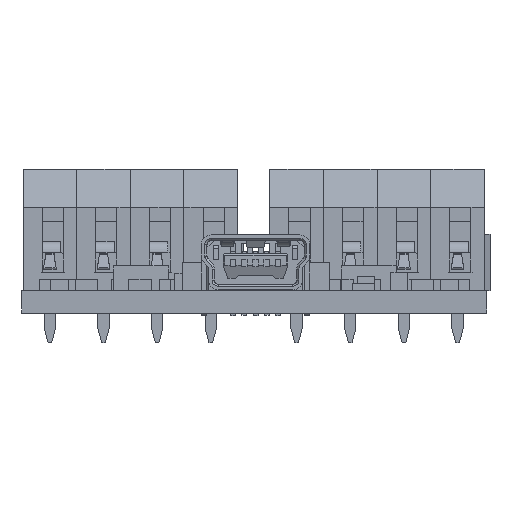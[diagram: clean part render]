
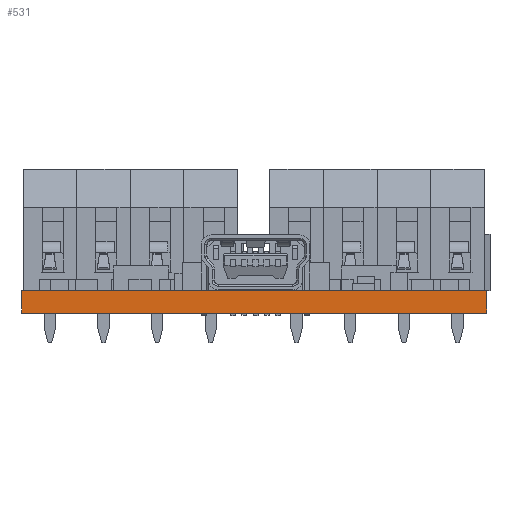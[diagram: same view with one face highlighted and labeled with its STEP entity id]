
A CAD part, front view. The second image highlights one B-rep face of the part: STEP entity #531.
In plain terms, the highlighted planar face has unit normal (0, -1, 0).
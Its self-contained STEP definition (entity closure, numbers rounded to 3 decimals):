
#268 = EDGE_CURVE('',#269,#271,#273,.T.);
#269 = VERTEX_POINT('',#270);
#270 = CARTESIAN_POINT('',(25.4,25.4,0.));
#271 = VERTEX_POINT('',#272);
#272 = CARTESIAN_POINT('',(25.4,25.4,1.6));
#273 = SURFACE_CURVE('',#274,(#278,#290),.PCURVE_S1.);
#274 = LINE('',#275,#276);
#275 = CARTESIAN_POINT('',(25.4,25.4,0.));
#276 = VECTOR('',#277,1.);
#277 = DIRECTION('',(0.,0.,1.));
#278 = PCURVE('',#279,#284);
#279 = PLANE('',#280);
#280 = AXIS2_PLACEMENT_3D('',#281,#282,#283);
#281 = CARTESIAN_POINT('',(25.4,25.4,0.));
#282 = DIRECTION('',(-1.,0.,0.));
#283 = DIRECTION('',(0.,1.,0.));
#284 = DEFINITIONAL_REPRESENTATION('',(#285),#289);
#285 = LINE('',#286,#287);
#286 = CARTESIAN_POINT('',(0.,0.));
#287 = VECTOR('',#288,1.);
#288 = DIRECTION('',(0.,-1.));
#289 = ( GEOMETRIC_REPRESENTATION_CONTEXT(2) 
PARAMETRIC_REPRESENTATION_CONTEXT() REPRESENTATION_CONTEXT('2D SPACE',''
  ) );
#290 = PCURVE('',#291,#296);
#291 = PLANE('',#292);
#292 = AXIS2_PLACEMENT_3D('',#293,#294,#295);
#293 = CARTESIAN_POINT('',(58.42,25.4,0.));
#294 = DIRECTION('',(0.,-1.,0.));
#295 = DIRECTION('',(-1.,0.,0.));
#296 = DEFINITIONAL_REPRESENTATION('',(#297),#301);
#297 = LINE('',#298,#299);
#298 = CARTESIAN_POINT('',(33.02,0.));
#299 = VECTOR('',#300,1.);
#300 = DIRECTION('',(0.,-1.));
#301 = ( GEOMETRIC_REPRESENTATION_CONTEXT(2) 
PARAMETRIC_REPRESENTATION_CONTEXT() REPRESENTATION_CONTEXT('2D SPACE',''
  ) );
#319 = PLANE('',#320);
#320 = AXIS2_PLACEMENT_3D('',#321,#322,#323);
#321 = CARTESIAN_POINT('',(25.4,25.4,1.6));
#322 = DIRECTION('',(0.,0.,1.));
#323 = DIRECTION('',(1.,0.,0.));
#373 = PLANE('',#374);
#374 = AXIS2_PLACEMENT_3D('',#375,#376,#377);
#375 = CARTESIAN_POINT('',(25.4,25.4,0.));
#376 = DIRECTION('',(0.,0.,1.));
#377 = DIRECTION('',(1.,0.,0.));
#428 = PLANE('',#429);
#429 = AXIS2_PLACEMENT_3D('',#430,#431,#432);
#430 = CARTESIAN_POINT('',(58.42,78.74,0.));
#431 = DIRECTION('',(1.,0.,0.));
#432 = DIRECTION('',(0.,-1.,0.));
#466 = VERTEX_POINT('',#467);
#467 = CARTESIAN_POINT('',(58.42,25.4,1.6));
#488 = EDGE_CURVE('',#489,#466,#491,.T.);
#489 = VERTEX_POINT('',#490);
#490 = CARTESIAN_POINT('',(58.42,25.4,0.));
#491 = SURFACE_CURVE('',#492,(#496,#503),.PCURVE_S1.);
#492 = LINE('',#493,#494);
#493 = CARTESIAN_POINT('',(58.42,25.4,0.));
#494 = VECTOR('',#495,1.);
#495 = DIRECTION('',(0.,0.,1.));
#496 = PCURVE('',#428,#497);
#497 = DEFINITIONAL_REPRESENTATION('',(#498),#502);
#498 = LINE('',#499,#500);
#499 = CARTESIAN_POINT('',(53.34,0.));
#500 = VECTOR('',#501,1.);
#501 = DIRECTION('',(0.,-1.));
#502 = ( GEOMETRIC_REPRESENTATION_CONTEXT(2) 
PARAMETRIC_REPRESENTATION_CONTEXT() REPRESENTATION_CONTEXT('2D SPACE',''
  ) );
#503 = PCURVE('',#291,#504);
#504 = DEFINITIONAL_REPRESENTATION('',(#505),#509);
#505 = LINE('',#506,#507);
#506 = CARTESIAN_POINT('',(0.,0.));
#507 = VECTOR('',#508,1.);
#508 = DIRECTION('',(0.,-1.));
#509 = ( GEOMETRIC_REPRESENTATION_CONTEXT(2) 
PARAMETRIC_REPRESENTATION_CONTEXT() REPRESENTATION_CONTEXT('2D SPACE',''
  ) );
#531 = ADVANCED_FACE('',(#532),#291,.T.);
#532 = FACE_BOUND('',#533,.T.);
#533 = EDGE_LOOP('',(#534,#535,#556,#557));
#534 = ORIENTED_EDGE('',*,*,#488,.T.);
#535 = ORIENTED_EDGE('',*,*,#536,.T.);
#536 = EDGE_CURVE('',#466,#271,#537,.T.);
#537 = SURFACE_CURVE('',#538,(#542,#549),.PCURVE_S1.);
#538 = LINE('',#539,#540);
#539 = CARTESIAN_POINT('',(58.42,25.4,1.6));
#540 = VECTOR('',#541,1.);
#541 = DIRECTION('',(-1.,0.,0.));
#542 = PCURVE('',#291,#543);
#543 = DEFINITIONAL_REPRESENTATION('',(#544),#548);
#544 = LINE('',#545,#546);
#545 = CARTESIAN_POINT('',(0.,-1.6));
#546 = VECTOR('',#547,1.);
#547 = DIRECTION('',(1.,0.));
#548 = ( GEOMETRIC_REPRESENTATION_CONTEXT(2) 
PARAMETRIC_REPRESENTATION_CONTEXT() REPRESENTATION_CONTEXT('2D SPACE',''
  ) );
#549 = PCURVE('',#319,#550);
#550 = DEFINITIONAL_REPRESENTATION('',(#551),#555);
#551 = LINE('',#552,#553);
#552 = CARTESIAN_POINT('',(33.02,0.));
#553 = VECTOR('',#554,1.);
#554 = DIRECTION('',(-1.,0.));
#555 = ( GEOMETRIC_REPRESENTATION_CONTEXT(2) 
PARAMETRIC_REPRESENTATION_CONTEXT() REPRESENTATION_CONTEXT('2D SPACE',''
  ) );
#556 = ORIENTED_EDGE('',*,*,#268,.F.);
#557 = ORIENTED_EDGE('',*,*,#558,.F.);
#558 = EDGE_CURVE('',#489,#269,#559,.T.);
#559 = SURFACE_CURVE('',#560,(#564,#571),.PCURVE_S1.);
#560 = LINE('',#561,#562);
#561 = CARTESIAN_POINT('',(58.42,25.4,0.));
#562 = VECTOR('',#563,1.);
#563 = DIRECTION('',(-1.,0.,0.));
#564 = PCURVE('',#291,#565);
#565 = DEFINITIONAL_REPRESENTATION('',(#566),#570);
#566 = LINE('',#567,#568);
#567 = CARTESIAN_POINT('',(0.,0.));
#568 = VECTOR('',#569,1.);
#569 = DIRECTION('',(1.,0.));
#570 = ( GEOMETRIC_REPRESENTATION_CONTEXT(2) 
PARAMETRIC_REPRESENTATION_CONTEXT() REPRESENTATION_CONTEXT('2D SPACE',''
  ) );
#571 = PCURVE('',#373,#572);
#572 = DEFINITIONAL_REPRESENTATION('',(#573),#577);
#573 = LINE('',#574,#575);
#574 = CARTESIAN_POINT('',(33.02,0.));
#575 = VECTOR('',#576,1.);
#576 = DIRECTION('',(-1.,0.));
#577 = ( GEOMETRIC_REPRESENTATION_CONTEXT(2) 
PARAMETRIC_REPRESENTATION_CONTEXT() REPRESENTATION_CONTEXT('2D SPACE',''
  ) );
